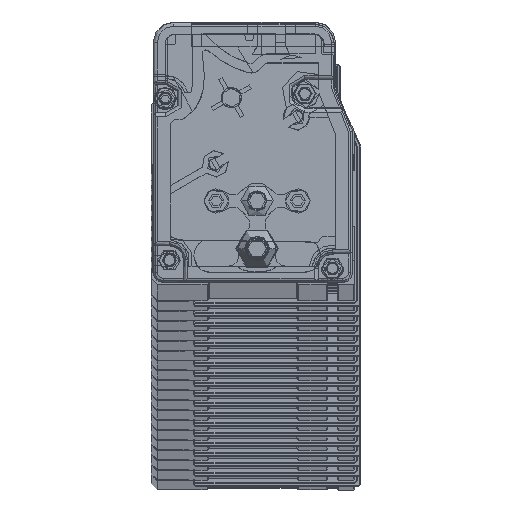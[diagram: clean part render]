
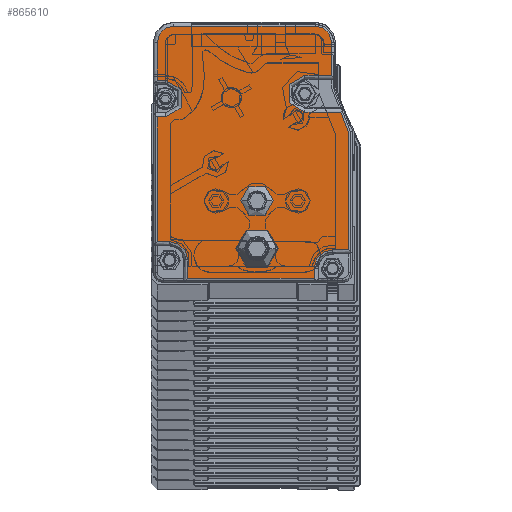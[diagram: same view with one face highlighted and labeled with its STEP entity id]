
A CAD part, top view. The second image highlights one B-rep face of the part: STEP entity #865610.
In plain terms, the highlighted planar face has unit normal (0, 0, 1).
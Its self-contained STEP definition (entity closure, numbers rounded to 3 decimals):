
#790970=CARTESIAN_POINT('',(-20.559,51.727,
2958.89));
#790980=DIRECTION('',(1.,0.,0.));
#790990=VECTOR('',#790980,1.);
#791000=LINE('',#790970,#790990);
#791010=CARTESIAN_POINT('',(-68.559,51.727,
2958.89));
#791020=VERTEX_POINT('',#791010);
#791030=CARTESIAN_POINT('',(-66.559,51.727,
2958.89));
#791040=VERTEX_POINT('',#791030);
#791050=EDGE_CURVE('',#791020,#791040,#791000,.T.);
#791550=CARTESIAN_POINT('',(-20.559,3.124,
2958.89));
#791560=DIRECTION('',(-1.,0.,0.));
#791570=VECTOR('',#791560,1.);
#791580=LINE('',#791550,#791570);
#791590=CARTESIAN_POINT('',(-30.059,3.124,
2958.89));
#791600=VERTEX_POINT('',#791590);
#791610=CARTESIAN_POINT('',(-61.059,3.124,
2958.89));
#791620=VERTEX_POINT('',#791610);
#791630=EDGE_CURVE('',#791600,#791620,#791580,.T.);
#793540=CARTESIAN_POINT('',(-65.559,7.624,
2958.89));
#793550=DIRECTION('',(0.,0.,-1.));
#793560=DIRECTION('',(-1.,0.,0.));
#793570=AXIS2_PLACEMENT_3D('',#793540,#793550,#793560);
#793580=CIRCLE('',#793570,4.5);
#793590=CARTESIAN_POINT('',(-65.559,12.124,
2958.89));
#793600=VERTEX_POINT('',#793590);
#793610=CARTESIAN_POINT('',(-61.059,7.624,
2958.89));
#793620=VERTEX_POINT('',#793610);
#793630=EDGE_CURVE('',#793600,#793620,#793580,.T.);
#827600=CARTESIAN_POINT('',(-32.309,48.424,
2958.89));
#827610=DIRECTION('',(0.,0.,-1.));
#827620=DIRECTION('',(-1.,0.,0.));
#827630=AXIS2_PLACEMENT_3D('',#827600,#827610,#827620);
#827640=CIRCLE('',#827630,4.5);
#827650=CARTESIAN_POINT('',(-32.309,43.924,
2958.89));
#827660=VERTEX_POINT('',#827650);
#827670=CARTESIAN_POINT('',(-32.309,52.924,
2958.89));
#827680=VERTEX_POINT('',#827670);
#827690=EDGE_CURVE('',#827660,#827680,#827640,.T.);
#863610=CARTESIAN_POINT('',(-7.243,2.124,
2958.89));
#863620=DIRECTION('',(0.362,-0.932,0.));
#863630=VECTOR('',#863620,1.);
#863640=LINE('',#863610,#863630);
#863650=CARTESIAN_POINT('',(-23.499,43.924,
2958.89));
#863660=VERTEX_POINT('',#863650);
#863670=CARTESIAN_POINT('',(-21.559,38.937,
2958.89));
#863680=VERTEX_POINT('',#863670);
#863690=EDGE_CURVE('',#863660,#863680,#863640,.T.);
#863970=CARTESIAN_POINT('',(-20.265,1.758,
2958.89));
#863980=DIRECTION('',(0.,0.,-1.));
#863990=DIRECTION('',(-1.,0.,0.));
#864000=AXIS2_PLACEMENT_3D('',#863970,#863980,#863990);
#864010=PLANE('',#864000);
#864020=CARTESIAN_POINT('',(-44.056,10.421,
2958.89));
#864030=DIRECTION('',(0.,0.,-1.));
#864040=DIRECTION('',(-1.,0.,0.));
#864050=AXIS2_PLACEMENT_3D('',#864020,#864030,#864040);
#864060=CIRCLE('',#864050,5.);
#864070=CARTESIAN_POINT('',(-39.056,10.421,
2958.89));
#864080=VERTEX_POINT('',#864070);
#864090=CARTESIAN_POINT('',(-49.056,10.421,
2958.89));
#864100=VERTEX_POINT('',#864090);
#864110=EDGE_CURVE('',#864080,#864100,#864060,.T.);
#864120=ORIENTED_EDGE('',*,*,#864110,.T.);
#864130=EDGE_CURVE('',#864100,#864080,#864060,.T.);
#864140=ORIENTED_EDGE('',*,*,#864130,.T.);
#864150=EDGE_LOOP('',(#864140,#864120));
#864160=FACE_BOUND('',#864150,.T.);
#864170=CARTESIAN_POINT('',(-44.059,22.124,
2958.89));
#864180=DIRECTION('',(0.,0.,1.));
#864190=DIRECTION('',(-1.,0.,0.));
#864200=AXIS2_PLACEMENT_3D('',#864170,#864180,#864190);
#864210=CIRCLE('',#864200,4.);
#864220=CARTESIAN_POINT('',(-40.059,22.124,
2958.89));
#864230=VERTEX_POINT('',#864220);
#864240=CARTESIAN_POINT('',(-48.059,22.124,
2958.89));
#864250=VERTEX_POINT('',#864240);
#864260=EDGE_CURVE('',#864230,#864250,#864210,.T.);
#864270=ORIENTED_EDGE('',*,*,#864260,.F.);
#864280=EDGE_CURVE('',#864250,#864230,#864210,.T.);
#864290=ORIENTED_EDGE('',*,*,#864280,.F.);
#864300=EDGE_LOOP('',(#864290,#864270));
#864310=FACE_BOUND('',#864300,.T.);
#864320=CARTESIAN_POINT('',(-61.059,2.124,
2958.89));
#864330=DIRECTION('',(0.,-1.,0.));
#864340=VECTOR('',#864330,1.);
#864350=LINE('',#864320,#864340);
#864360=EDGE_CURVE('',#793620,#791620,#864350,.T.);
#864370=ORIENTED_EDGE('',*,*,#864360,.T.);
#864380=ORIENTED_EDGE('',*,*,#793630,.T.);
#864390=CARTESIAN_POINT('',(-20.559,12.124,
2958.89));
#864400=DIRECTION('',(1.,0.,0.));
#864410=VECTOR('',#864400,1.);
#864420=LINE('',#864390,#864410);
#864430=CARTESIAN_POINT('',(-68.559,12.124,
2958.89));
#864440=VERTEX_POINT('',#864430);
#864450=EDGE_CURVE('',#864440,#793600,#864420,.T.);
#864460=ORIENTED_EDGE('',*,*,#864450,.T.);
#864470=CARTESIAN_POINT('',(-68.559,2.124,
2958.89));
#864480=DIRECTION('',(0.,-1.,0.));
#864490=VECTOR('',#864480,1.);
#864500=LINE('',#864470,#864490);
#864510=CARTESIAN_POINT('',(-68.559,42.727,
2958.89));
#864520=VERTEX_POINT('',#864510);
#864530=EDGE_CURVE('',#864520,#864440,#864500,.T.);
#864540=ORIENTED_EDGE('',*,*,#864530,.T.);
#864550=CARTESIAN_POINT('',(-20.559,42.727,
2958.89));
#864560=DIRECTION('',(-1.,0.,0.));
#864570=VECTOR('',#864560,1.);
#864580=LINE('',#864550,#864570);
#864590=CARTESIAN_POINT('',(-66.559,42.727,
2958.89));
#864600=VERTEX_POINT('',#864590);
#864610=EDGE_CURVE('',#864600,#864520,#864580,.T.);
#864620=ORIENTED_EDGE('',*,*,#864610,.T.);
#864630=CARTESIAN_POINT('',(-66.559,47.227,
2958.89));
#864640=DIRECTION('',(0.,0.,-1.));
#864650=DIRECTION('',(-1.,0.,0.));
#864660=AXIS2_PLACEMENT_3D('',#864630,#864640,#864650);
#864670=CIRCLE('',#864660,4.5);
#864680=EDGE_CURVE('',#791040,#864600,#864670,.T.);
#864690=ORIENTED_EDGE('',*,*,#864680,.T.);
#864700=ORIENTED_EDGE('',*,*,#791050,.T.);
#864710=CARTESIAN_POINT('',(-68.559,2.124,
2958.89));
#864720=DIRECTION('',(0.,-1.,0.));
#864730=VECTOR('',#864720,1.);
#864740=LINE('',#864710,#864730);
#864750=CARTESIAN_POINT('',(-68.559,61.024,
2958.89));
#864760=VERTEX_POINT('',#864750);
#864770=EDGE_CURVE('',#864760,#791020,#864740,.T.);
#864780=ORIENTED_EDGE('',*,*,#864770,.T.);
#864790=CARTESIAN_POINT('',(-64.559,61.024,
2958.89));
#864800=DIRECTION('',(0.,0.,1.));
#864810=DIRECTION('',(1.,0.,0.));
#864820=AXIS2_PLACEMENT_3D('',#864790,#864800,#864810);
#864830=CIRCLE('',#864820,4.);
#864840=CARTESIAN_POINT('',(-64.559,65.024,
2958.89));
#864850=VERTEX_POINT('',#864840);
#864860=EDGE_CURVE('',#864850,#864760,#864830,.T.);
#864870=ORIENTED_EDGE('',*,*,#864860,.T.);
#864880=CARTESIAN_POINT('',(-20.559,65.024,
2958.89));
#864890=DIRECTION('',(-1.,0.,0.));
#864900=VECTOR('',#864890,1.);
#864910=LINE('',#864880,#864900);
#864920=CARTESIAN_POINT('',(-29.759,65.024,
2958.89));
#864930=VERTEX_POINT('',#864920);
#864940=EDGE_CURVE('',#864930,#864850,#864910,.T.);
#864950=ORIENTED_EDGE('',*,*,#864940,.T.);
#864960=CARTESIAN_POINT('',(-29.759,61.024,
2958.89));
#864970=DIRECTION('',(0.,0.,1.));
#864980=DIRECTION('',(1.,0.,0.));
#864990=AXIS2_PLACEMENT_3D('',#864960,#864970,#864980);
#865000=CIRCLE('',#864990,4.);
#865010=CARTESIAN_POINT('',(-25.759,61.024,
2958.89));
#865020=VERTEX_POINT('',#865010);
#865030=EDGE_CURVE('',#865020,#864930,#865000,.T.);
#865040=ORIENTED_EDGE('',*,*,#865030,.T.);
#865050=CARTESIAN_POINT('',(-25.759,2.124,
2958.89));
#865060=DIRECTION('',(0.,1.,0.));
#865070=VECTOR('',#865060,1.);
#865080=LINE('',#865050,#865070);
#865090=CARTESIAN_POINT('',(-25.759,52.924,
2958.89));
#865100=VERTEX_POINT('',#865090);
#865110=EDGE_CURVE('',#865100,#865020,#865080,.T.);
#865120=ORIENTED_EDGE('',*,*,#865110,.T.);
#865130=CARTESIAN_POINT('',(-20.559,52.924,
2958.89));
#865140=DIRECTION('',(-1.,0.,0.));
#865150=VECTOR('',#865140,1.);
#865160=LINE('',#865130,#865150);
#865170=EDGE_CURVE('',#865100,#827680,#865160,.T.);
#865180=ORIENTED_EDGE('',*,*,#865170,.F.);
#865190=ORIENTED_EDGE('',*,*,#827690,.T.);
#865200=CARTESIAN_POINT('',(-20.559,43.924,
2958.89));
#865210=DIRECTION('',(-1.,0.,0.));
#865220=VECTOR('',#865210,1.);
#865230=LINE('',#865200,#865220);
#865240=EDGE_CURVE('',#863660,#827660,#865230,.T.);
#865250=ORIENTED_EDGE('',*,*,#865240,.T.);
#865260=ORIENTED_EDGE('',*,*,#863690,.F.);
#865270=CARTESIAN_POINT('',(-21.559,2.124,
2958.89));
#865280=DIRECTION('',(0.,-1.,0.));
#865290=VECTOR('',#865280,1.);
#865300=LINE('',#865270,#865290);
#865310=CARTESIAN_POINT('',(-21.559,10.124,
2958.89));
#865320=VERTEX_POINT('',#865310);
#865330=EDGE_CURVE('',#863680,#865320,#865300,.T.);
#865340=ORIENTED_EDGE('',*,*,#865330,.F.);
#865350=CARTESIAN_POINT('',(-20.559,10.124,
2958.89));
#865360=DIRECTION('',(1.,0.,0.));
#865370=VECTOR('',#865360,1.);
#865380=LINE('',#865350,#865370);
#865390=CARTESIAN_POINT('',(-25.559,10.124,
2958.89));
#865400=VERTEX_POINT('',#865390);
#865410=EDGE_CURVE('',#865400,#865320,#865380,.T.);
#865420=ORIENTED_EDGE('',*,*,#865410,.T.);
#865430=CARTESIAN_POINT('',(-25.559,5.624,
2958.89));
#865440=DIRECTION('',(0.,0.,-1.));
#865450=DIRECTION('',(-1.,0.,0.));
#865460=AXIS2_PLACEMENT_3D('',#865430,#865440,#865450);
#865470=CIRCLE('',#865460,4.5);
#865480=CARTESIAN_POINT('',(-30.059,5.624,
2958.89));
#865490=VERTEX_POINT('',#865480);
#865500=EDGE_CURVE('',#865490,#865400,#865470,.T.);
#865510=ORIENTED_EDGE('',*,*,#865500,.T.);
#865520=CARTESIAN_POINT('',(-30.059,2.124,
2958.89));
#865530=DIRECTION('',(0.,1.,0.));
#865540=VECTOR('',#865530,1.);
#865550=LINE('',#865520,#865540);
#865560=EDGE_CURVE('',#791600,#865490,#865550,.T.);
#865570=ORIENTED_EDGE('',*,*,#865560,.T.);
#865580=ORIENTED_EDGE('',*,*,#791630,.F.);
#865590=EDGE_LOOP('',(#865580,#865570,#865510,#865420,#865340,#865260,
#865250,#865190,#865180,#865120,#865040,#864950,#864870,#864780,#864700,
#864690,#864620,#864540,#864460,#864380,#864370));
#865600=FACE_OUTER_BOUND('',#865590,.T.);
#865610=ADVANCED_FACE('',(#864160,#864310,#865600),#864010,.F.);
